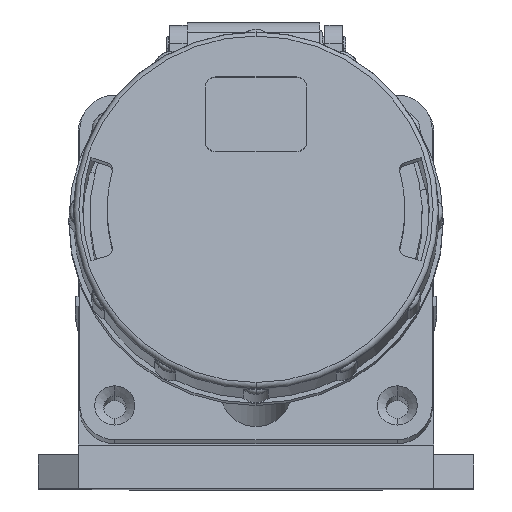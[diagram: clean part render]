
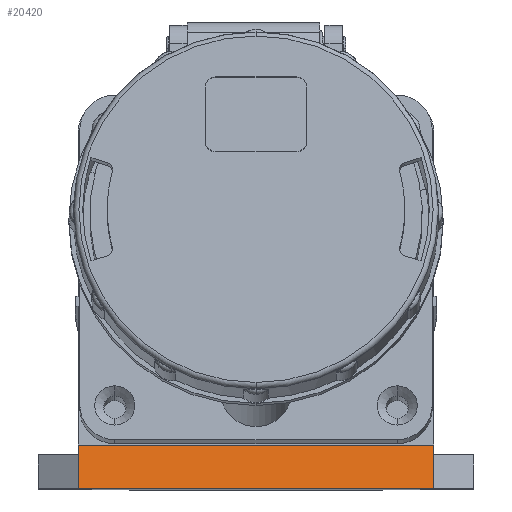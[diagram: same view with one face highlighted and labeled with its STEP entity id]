
A CAD part, top view. The second image highlights one B-rep face of the part: STEP entity #20420.
In plain terms, the highlighted planar face has unit normal (0, 0.208, 0.978).
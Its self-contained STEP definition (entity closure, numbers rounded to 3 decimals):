
#360 = EDGE_CURVE ( 'NONE', #5454, #5430, #3609, .T. ) ;
#361 = EDGE_CURVE ( 'NONE', #5426, #5364, #3612, .T. ) ;
#362 = EDGE_CURVE ( 'NONE', #5426, #5318, #3615, .T. ) ;
#363 = EDGE_CURVE ( 'NONE', #5300, #5326, #3618, .T. ) ;
#364 = EDGE_CURVE ( 'NONE', #5326, #5460, #3621, .T. ) ;
#644 = ORIENTED_EDGE ( 'NONE', *, *, #362, .F. ) ;
#645 = ORIENTED_EDGE ( 'NONE', *, *, #10121, .F. ) ;
#646 = ORIENTED_EDGE ( 'NONE', *, *, #361, .T. ) ;
#647 = ORIENTED_EDGE ( 'NONE', *, *, #363, .T. ) ;
#648 = ORIENTED_EDGE ( 'NONE', *, *, #10104, .F. ) ;
#649 = ORIENTED_EDGE ( 'NONE', *, *, #364, .T. ) ;
#650 = ORIENTED_EDGE ( 'NONE', *, *, #10109, .T. ) ;
#651 = ORIENTED_EDGE ( 'NONE', *, *, #360, .T. ) ;
#2165 = AXIS2_PLACEMENT_3D ( 'NONE', #8178, #8179, #8180 ) ;
#2168 = FACE_OUTER_BOUND ( 'NONE', #19344, .T. ) ;
#3609 = LINE ( 'NONE', #3610, #27355 ) ;
#3610 = CARTESIAN_POINT ( 'NONE',  ( 51., 12.423, -2.638 ) ) ;
#3611 = DIRECTION ( 'NONE',  ( -1., 0., 0. ) ) ;
#3612 = LINE ( 'NONE', #3613, #27354 ) ;
#3613 = CARTESIAN_POINT ( 'NONE',  ( -50.963, 4.515, -0.959 ) ) ;
#3614 = DIRECTION ( 'NONE',  ( 0.007, -0.978, 0.208 ) ) ;
#3615 = LINE ( 'NONE', #3616, #27416 ) ;
#3616 = CARTESIAN_POINT ( 'NONE',  ( -51., 0., 0. ) ) ;
#3617 = DIRECTION ( 'NONE',  ( 0., 0.978, -0.208 ) ) ;
#3618 = LINE ( 'NONE', #3619, #27396 ) ;
#3619 = CARTESIAN_POINT ( 'NONE',  ( 50.928, -0.235, 0.05 ) ) ;
#3620 = DIRECTION ( 'NONE',  ( 0.007, 0.978, -0.208 ) ) ;
#3621 = LINE ( 'NONE', #3622, #27368 ) ;
#3622 = CARTESIAN_POINT ( 'NONE',  ( 51., 0., 0. ) ) ;
#3623 = DIRECTION ( 'NONE',  ( 0., 0.978, -0.208 ) ) ;
#4422 = CARTESIAN_POINT ( 'NONE',  ( 50.93, 0., 0. ) ) ;
#4431 = CARTESIAN_POINT ( 'NONE',  ( -51., 9.754, -2.072 ) ) ;
#4435 = CARTESIAN_POINT ( 'NONE',  ( 51., 9.603, -2.04 ) ) ;
#4454 = CARTESIAN_POINT ( 'NONE',  ( -50.93, 0., 0. ) ) ;
#4485 = CARTESIAN_POINT ( 'NONE',  ( -51., 9.603, -2.04 ) ) ;
#4487 = CARTESIAN_POINT ( 'NONE',  ( -51., 12.423, -2.638 ) ) ;
#4499 = CARTESIAN_POINT ( 'NONE',  ( 51., 12.423, -2.638 ) ) ;
#4502 = CARTESIAN_POINT ( 'NONE',  ( 51., 9.754, -2.072 ) ) ;
#5048 = LINE ( 'NONE', #5049, #26915 ) ;
#5049 = CARTESIAN_POINT ( 'NONE',  ( 51., 0., 0. ) ) ;
#5050 = DIRECTION ( 'NONE',  ( 0., -0.978, 0.208 ) ) ;
#5065 = LINE ( 'NONE', #5066, #27068 ) ;
#5066 = CARTESIAN_POINT ( 'NONE',  ( -51., 0., 0. ) ) ;
#5067 = DIRECTION ( 'NONE',  ( 0., -0.978, 0.208 ) ) ;
#5151 = LINE ( 'NONE', #5152, #26698 ) ;
#5152 = CARTESIAN_POINT ( 'NONE',  ( 51., 0., 0. ) ) ;
#5153 = DIRECTION ( 'NONE',  ( -1., 0., 0. ) ) ;
#5300 = VERTEX_POINT ( 'NONE', #4422 ) ;
#5318 = VERTEX_POINT ( 'NONE', #4431 ) ;
#5326 = VERTEX_POINT ( 'NONE', #4435 ) ;
#5364 = VERTEX_POINT ( 'NONE', #4454 ) ;
#5426 = VERTEX_POINT ( 'NONE', #4485 ) ;
#5430 = VERTEX_POINT ( 'NONE', #4487 ) ;
#5454 = VERTEX_POINT ( 'NONE', #4499 ) ;
#5460 = VERTEX_POINT ( 'NONE', #4502 ) ;
#8177 = PLANE ( 'NONE',  #2165 ) ;
#8178 = CARTESIAN_POINT ( 'NONE',  ( 51., 0., 0. ) ) ;
#8179 = DIRECTION ( 'NONE',  ( 0., -0.208, -0.978 ) ) ;
#8180 = DIRECTION ( 'NONE',  ( 0., 0.978, -0.208 ) ) ;
#10104 = EDGE_CURVE ( 'NONE', #5454, #5460, #5048, .T. ) ;
#10109 = EDGE_CURVE ( 'NONE', #5430, #5318, #5065, .T. ) ;
#10121 = EDGE_CURVE ( 'NONE', #5300, #5364, #5151, .T. ) ;
#19344 = EDGE_LOOP ( 'NONE', ( #644, #646, #645, #647, #649, #648, #651, #650 ) ) ;
#20420 = ADVANCED_FACE ( 'NONE', ( #2168 ), #8177, .F. ) ;
#26698 = VECTOR ( 'NONE', #5153, 1000. ) ;
#26915 = VECTOR ( 'NONE', #5050, 1000. ) ;
#27068 = VECTOR ( 'NONE', #5067, 1000. ) ;
#27354 = VECTOR ( 'NONE', #3614, 1000. ) ;
#27355 = VECTOR ( 'NONE', #3611, 1000. ) ;
#27368 = VECTOR ( 'NONE', #3623, 1000. ) ;
#27396 = VECTOR ( 'NONE', #3620, 1000. ) ;
#27416 = VECTOR ( 'NONE', #3617, 1000. ) ;
